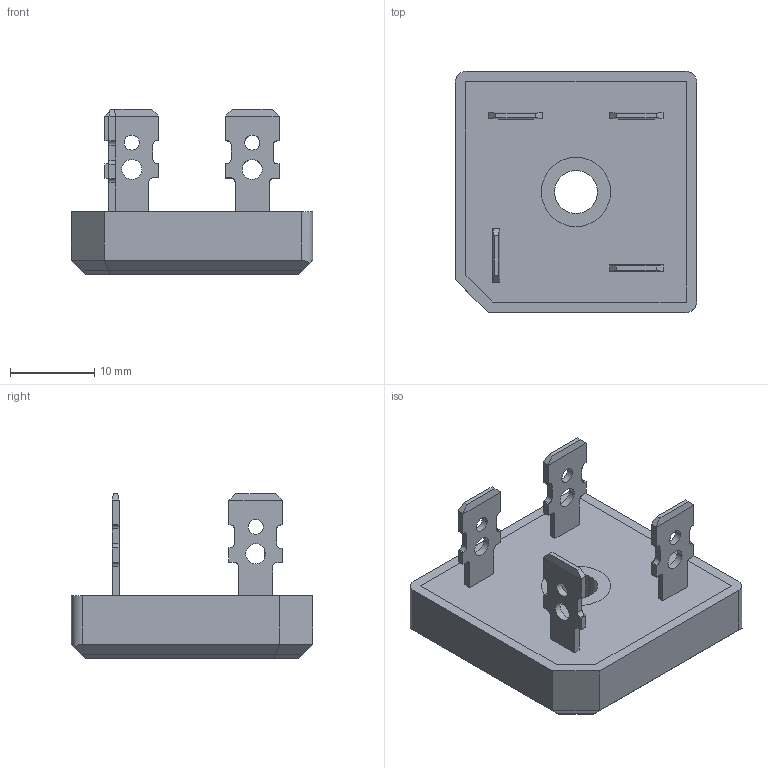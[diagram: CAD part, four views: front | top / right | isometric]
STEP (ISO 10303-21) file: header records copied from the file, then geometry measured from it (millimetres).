
FILE_DESCRIPTION(/* description */ (''),/* implementation_level */ '2;1');
FILE_NAME(/* name */ 'KBPC-FP-.stp',/* time_stamp */ '2017-12-05T14:48:07+01:00',/* author */ (''),/* organization */ (''),/* preprocessor_version */ 'ST-DEVELOPER v14',/* originating_system */ 'SIEMENS PLM Software NX 8.0',/* authorisation */ '');
FILE_SCHEMA (('CONFIG_CONTROL_DESIGN'));
Length unit declared in the file: millimetre
Products named in the file (1): 012003-00110-body
Bounding box: 28.6 x 28.6 x 19.64 mm (x, y, z)
Volume: 5938.7 mm3; surface area: 7268.2 mm2
Topology: 7 solids, 7 shells, 202 faces, 545 edges, 360 vertices
Faces by surface type: plane 156, cylinder 46
Full cylindrical faces by diameter (mm): 1.78 x4, 2.36 x4, 5.1 x1, 8.2 x2
Entity records: 6345 total; most frequent: CARTESIAN_POINT 1097, ORIENTED_EDGE 1068, DIRECTION 1035, EDGE_CURVE 534, LINE 439, VECTOR 439, VERTEX_POINT 360, AXIS2_PLACEMENT_3D 298
